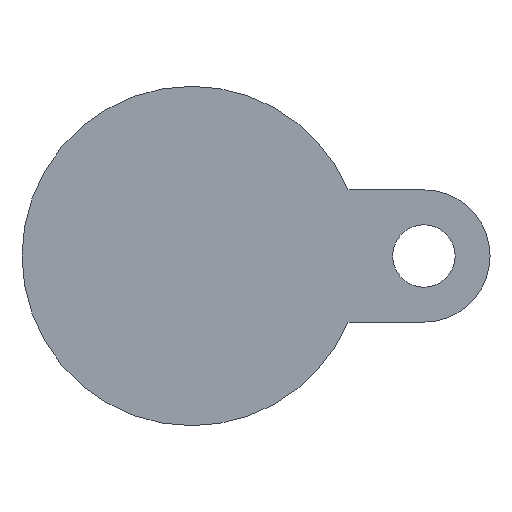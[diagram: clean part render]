
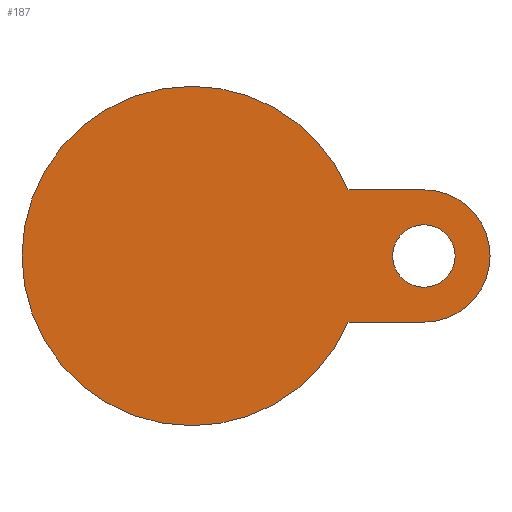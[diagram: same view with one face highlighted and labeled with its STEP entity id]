
A CAD part, front view. The second image highlights one B-rep face of the part: STEP entity #187.
In plain terms, the highlighted planar face has unit normal (0, -1, 0).
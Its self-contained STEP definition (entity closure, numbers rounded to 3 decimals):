
#3 = PLANE ( 'NONE',  #3580 ) ;
#12 = CARTESIAN_POINT ( 'NONE',  ( 0., -22., 0. ) ) ;
#28 = AXIS2_PLACEMENT_3D ( 'NONE', #1519, #4983, #5367 ) ;
#49 = ORIENTED_EDGE ( 'NONE', *, *, #5001, .T. ) ;
#187 = ADVANCED_FACE ( 'NONE', ( #2241, #1720 ), #3, .T. ) ;
#226 = AXIS2_PLACEMENT_3D ( 'NONE', #4134, #337, #1711 ) ;
#297 = CIRCLE ( 'NONE', #1710, 18.5 ) ;
#314 = CIRCLE ( 'NONE', #4293, 8.75 ) ;
#336 = VERTEX_POINT ( 'NONE', #3215 ) ;
#337 = DIRECTION ( 'NONE',  ( 0., -1., 0. ) ) ;
#436 = CARTESIAN_POINT ( 'NONE',  ( 43.749, -22., 18.5 ) ) ;
#453 = DIRECTION ( 'NONE',  ( 0., 0., 1. ) ) ;
#597 = EDGE_CURVE ( 'NONE', #4197, #5052, #2604, .T. ) ;
#646 = EDGE_CURVE ( 'NONE', #4173, #4061, #297, .T. ) ;
#679 = DIRECTION ( 'NONE',  ( 0., -1., 0. ) ) ;
#740 = CARTESIAN_POINT ( 'NONE',  ( 65., -22., 18.5 ) ) ;
#770 = CARTESIAN_POINT ( 'NONE',  ( 0., -22., 0. ) ) ;
#1171 = CARTESIAN_POINT ( 'NONE',  ( 65., -22., -18.5 ) ) ;
#1446 = CARTESIAN_POINT ( 'NONE',  ( 65., -22., 8.75 ) ) ;
#1467 = AXIS2_PLACEMENT_3D ( 'NONE', #12, #5159, #453 ) ;
#1519 = CARTESIAN_POINT ( 'NONE',  ( 0., -22., 0. ) ) ;
#1710 = AXIS2_PLACEMENT_3D ( 'NONE', #2378, #2466, #4151 ) ;
#1711 = DIRECTION ( 'NONE',  ( 0., 0., -1. ) ) ;
#1720 = FACE_BOUND ( 'NONE', #4365, .T. ) ;
#1725 = EDGE_LOOP ( 'NONE', ( #49, #3424, #3219, #5076, #2792, #3622 ) ) ;
#1882 = EDGE_CURVE ( 'NONE', #4986, #3347, #2446, .T. ) ;
#1946 = EDGE_CURVE ( 'NONE', #336, #4173, #3165, .T. ) ;
#2034 = CARTESIAN_POINT ( 'NONE',  ( 65., -22., 0. ) ) ;
#2241 = FACE_OUTER_BOUND ( 'NONE', #1725, .T. ) ;
#2349 = VECTOR ( 'NONE', #5192, 1000. ) ;
#2378 = CARTESIAN_POINT ( 'NONE',  ( 65., -22., 0. ) ) ;
#2446 = CIRCLE ( 'NONE', #226, 8.75 ) ;
#2466 = DIRECTION ( 'NONE',  ( 0., -1., 0. ) ) ;
#2481 = EDGE_CURVE ( 'NONE', #3347, #4986, #314, .T. ) ;
#2504 = DIRECTION ( 'NONE',  ( 0., 0., -1. ) ) ;
#2604 = CIRCLE ( 'NONE', #28, 47.5 ) ;
#2792 = ORIENTED_EDGE ( 'NONE', *, *, #1946, .T. ) ;
#3013 = EDGE_CURVE ( 'NONE', #336, #4963, #3859, .T. ) ;
#3165 = LINE ( 'NONE', #3516, #2349 ) ;
#3215 = CARTESIAN_POINT ( 'NONE',  ( 43.749, -22., -18.5 ) ) ;
#3218 = CARTESIAN_POINT ( 'NONE',  ( 0., -22., -47.5 ) ) ;
#3219 = ORIENTED_EDGE ( 'NONE', *, *, #3250, .F. ) ;
#3250 = EDGE_CURVE ( 'NONE', #4963, #4197, #4125, .T. ) ;
#3347 = VERTEX_POINT ( 'NONE', #1446 ) ;
#3355 = ORIENTED_EDGE ( 'NONE', *, *, #1882, .F. ) ;
#3369 = DIRECTION ( 'NONE',  ( 0., 0., 1. ) ) ;
#3381 = CARTESIAN_POINT ( 'NONE',  ( 28.666, -22., 18.5 ) ) ;
#3424 = ORIENTED_EDGE ( 'NONE', *, *, #597, .F. ) ;
#3516 = CARTESIAN_POINT ( 'NONE',  ( 65., -22., -18.5 ) ) ;
#3580 = AXIS2_PLACEMENT_3D ( 'NONE', #5102, #4683, #2504 ) ;
#3622 = ORIENTED_EDGE ( 'NONE', *, *, #646, .T. ) ;
#3718 = DIRECTION ( 'NONE',  ( -1., 0., 0. ) ) ;
#3744 = CARTESIAN_POINT ( 'NONE',  ( 65., -22., -8.75 ) ) ;
#3841 = ORIENTED_EDGE ( 'NONE', *, *, #2481, .F. ) ;
#3859 = CIRCLE ( 'NONE', #1467, 47.5 ) ;
#4061 = VERTEX_POINT ( 'NONE', #740 ) ;
#4125 = CIRCLE ( 'NONE', #5438, 47.5 ) ;
#4134 = CARTESIAN_POINT ( 'NONE',  ( 65., -22., 0. ) ) ;
#4145 = DIRECTION ( 'NONE',  ( 0., 1., 0. ) ) ;
#4151 = DIRECTION ( 'NONE',  ( 0., 0., -1. ) ) ;
#4173 = VERTEX_POINT ( 'NONE', #1171 ) ;
#4197 = VERTEX_POINT ( 'NONE', #4620 ) ;
#4293 = AXIS2_PLACEMENT_3D ( 'NONE', #2034, #679, #4469 ) ;
#4365 = EDGE_LOOP ( 'NONE', ( #3355, #3841 ) ) ;
#4469 = DIRECTION ( 'NONE',  ( 0., 0., -1. ) ) ;
#4597 = LINE ( 'NONE', #3381, #4908 ) ;
#4620 = CARTESIAN_POINT ( 'NONE',  ( 0., -22., 47.5 ) ) ;
#4683 = DIRECTION ( 'NONE',  ( 0., -1., 0. ) ) ;
#4908 = VECTOR ( 'NONE', #3718, 1000. ) ;
#4963 = VERTEX_POINT ( 'NONE', #3218 ) ;
#4983 = DIRECTION ( 'NONE',  ( 0., 1., 0. ) ) ;
#4986 = VERTEX_POINT ( 'NONE', #3744 ) ;
#5001 = EDGE_CURVE ( 'NONE', #4061, #5052, #4597, .T. ) ;
#5052 = VERTEX_POINT ( 'NONE', #436 ) ;
#5076 = ORIENTED_EDGE ( 'NONE', *, *, #3013, .F. ) ;
#5102 = CARTESIAN_POINT ( 'NONE',  ( 0., -22., 0. ) ) ;
#5159 = DIRECTION ( 'NONE',  ( 0., 1., 0. ) ) ;
#5192 = DIRECTION ( 'NONE',  ( 1., 0., 0. ) ) ;
#5367 = DIRECTION ( 'NONE',  ( 0., 0., 1. ) ) ;
#5438 = AXIS2_PLACEMENT_3D ( 'NONE', #770, #4145, #3369 ) ;
